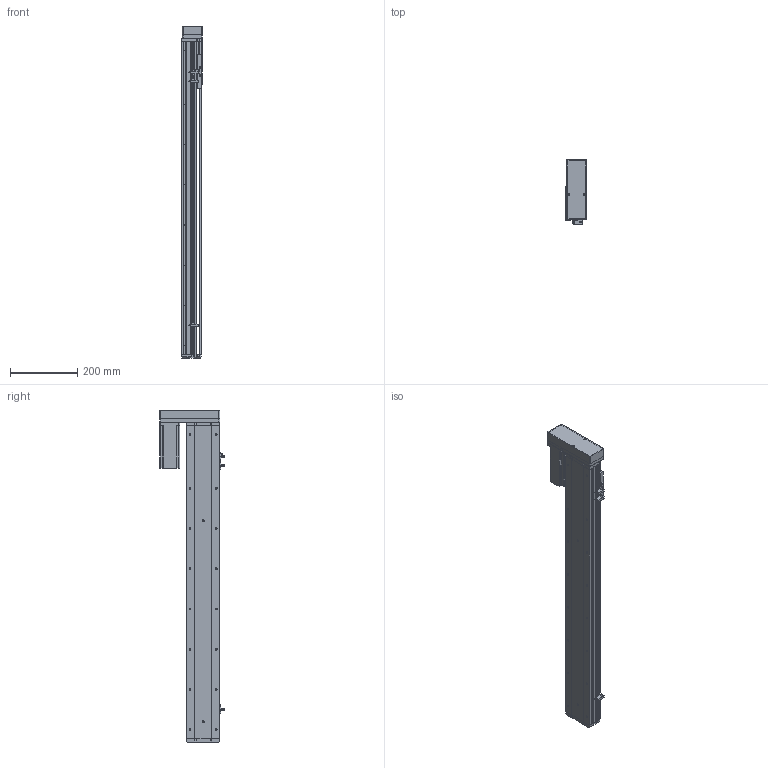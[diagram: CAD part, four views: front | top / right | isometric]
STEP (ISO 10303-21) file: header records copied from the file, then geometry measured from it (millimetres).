
FILE_DESCRIPTION (( 'STEP AP214' ), '1' );
FILE_NAME ('KSD100S-S750-ML-CM.STEP', '2019-08-30T06:26:46', ( '微软用户' ), ( '微软中国' ), 'SwSTEP 2.0', 'SolidWorks 2014', '' );
FILE_SCHEMA (( 'AUTOMOTIVE_DESIGN' ));
Length unit declared in the file: millimetre
Products named in the file (11): 悵誘欶酘衵殏; 台达ECMA－C20604AS伺服电机; 100宽马达安装板连板左右折丝杆; U倰嫖萇EEㄜSX672; 覜茼え100遵圉猾敕; 100宽防尘板丝杆750行程; 100遵鎮湛假蚾啣; 100宽滚珠螺姆安装板半封闭; 100遵傷啣; 100宽底板半封闭丝杆750行程; KSD100S-S750-ML-CM
Assembly tree (12 placements, depth 2):
  KSD100S-S750-ML-CM
    100宽底板半封闭丝杆750行程
    100遵傷啣
    100宽滚珠螺姆安装板半封闭
    100遵鎮湛假蚾啣
    100宽防尘板丝杆750行程
    覜茼え100遵圉猾敕
    U倰嫖萇EEㄜSX672  x3
    100宽马达安装板连板左右折丝杆
    台达ECMA－C20604AS伺服电机
    悵誘欶酘衵殏
Bounding box: 62 x 193.7 x 990.5 mm (x, y, z)
Volume: 2440011.9 mm3; surface area: 787377.4 mm2
Topology: 13 solids, 13 shells, 1283 faces, 3610 edges, 2281 vertices
Faces by surface type: cylinder 632, plane 508, cone 143
Entity records: 44615 total; most frequent: CARTESIAN_POINT 8665, DIRECTION 6089, ORIENTED_EDGE 5840, EDGE_CURVE 2920, AXIS2_PLACEMENT_3D 2221, VERTEX_POINT 1905, VECTOR 1647, LINE 1647
